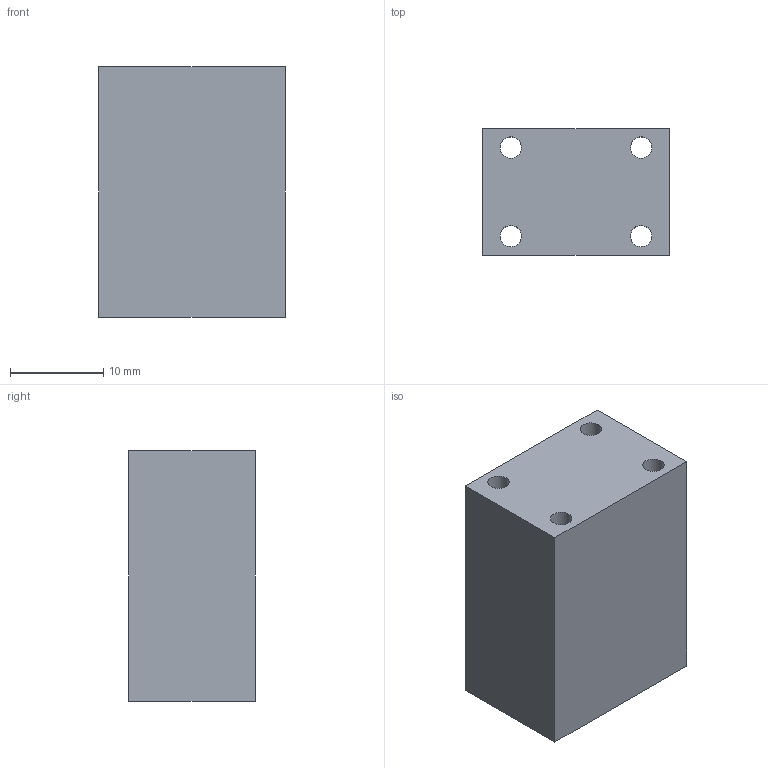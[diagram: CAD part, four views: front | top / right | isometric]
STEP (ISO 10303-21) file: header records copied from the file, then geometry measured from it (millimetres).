
FILE_DESCRIPTION(('Mechanical CAD reference from nasji.com'),'2;1');
FILE_NAME('NASJI.step','',(''),(''),'','NASJI distribution','');
FILE_SCHEMA(('AUTOMOTIVE_DESIGN { 1 0 10303 214 1 1 1 1 }'));
Length unit declared in the file: millimetre
Products named in the file (1): Open CASCADE STEP translator 7.8 6
Bounding box: 20 x 13.6 x 26.9 mm (x, y, z)
Volume: 6869.7 mm3; surface area: 3095.9 mm2
Topology: 1 solids, 1 shells, 10 faces, 24 edges, 16 vertices
Faces by surface type: plane 6, cylinder 4
Full cylindrical faces by diameter (mm): 2.3 x4
Entity records: 658 total; most frequent: CARTESIAN_POINT 147, DIRECTION 94, LINE 56, VECTOR 56, ORIENTED_EDGE 48, PCURVE 48, DEFINITIONAL_REPRESENTATION 48, EDGE_CURVE 24
